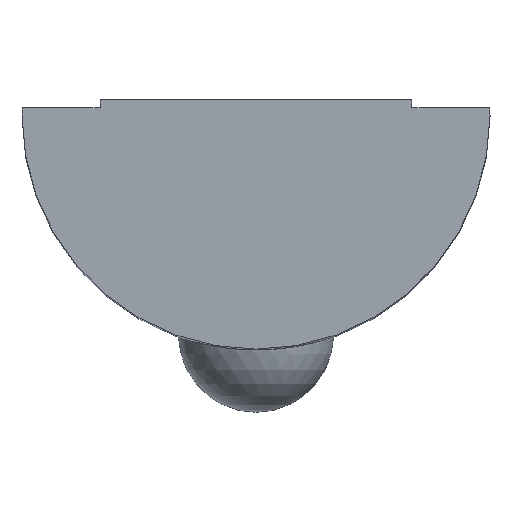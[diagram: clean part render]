
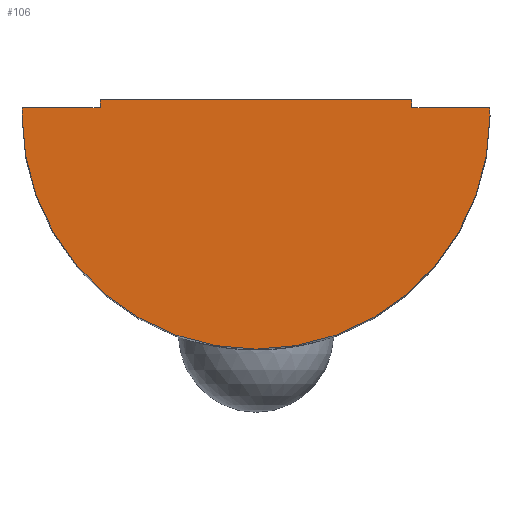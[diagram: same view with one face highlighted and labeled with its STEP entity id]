
A CAD part, top view. The second image highlights one B-rep face of the part: STEP entity #106.
In plain terms, the highlighted planar face has unit normal (0, 0, 1).
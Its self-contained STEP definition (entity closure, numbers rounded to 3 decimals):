
#14 = ORIENTED_EDGE ( 'NONE', *, *, #318, .T. ) ;
#16 = CARTESIAN_POINT ( 'NONE',  ( -11.754, 3.745, 23. ) ) ;
#23 = CIRCLE ( 'NONE', #239, 7.504 ) ;
#25 = DIRECTION ( 'NONE',  ( 0., 0., 1. ) ) ;
#29 = VERTEX_POINT ( 'NONE', #406 ) ;
#42 = EDGE_CURVE ( 'NONE', #551, #413, #23, .T. ) ;
#53 = AXIS2_PLACEMENT_3D ( 'NONE', #345, #401, #89 ) ;
#82 = CARTESIAN_POINT ( 'NONE',  ( -11.754, 3.495, 23. ) ) ;
#89 = DIRECTION ( 'NONE',  ( 1., 0., 0. ) ) ;
#106 = ADVANCED_FACE ( 'NONE', ( #118 ), #676, .T. ) ;
#108 = DIRECTION ( 'NONE',  ( 0., 0., 1. ) ) ;
#110 = LINE ( 'NONE', #224, #359 ) ;
#118 = FACE_OUTER_BOUND ( 'NONE', #437, .T. ) ;
#156 = CARTESIAN_POINT ( 'NONE',  ( -9.254, 3.495, 23. ) ) ;
#160 = VERTEX_POINT ( 'NONE', #82 ) ;
#166 = VECTOR ( 'NONE', #514, 1000. ) ;
#169 = CARTESIAN_POINT ( 'NONE',  ( -21.754, 3.495, 23. ) ) ;
#176 = CARTESIAN_POINT ( 'NONE',  ( -11.754, 3.745, 23. ) ) ;
#183 = VERTEX_POINT ( 'NONE', #650 ) ;
#188 = LINE ( 'NONE', #462, #443 ) ;
#205 = VECTOR ( 'NONE', #226, 1000. ) ;
#208 = AXIS2_PLACEMENT_3D ( 'NONE', #269, #641, #324 ) ;
#215 = CIRCLE ( 'NONE', #459, 7.504 ) ;
#224 = CARTESIAN_POINT ( 'NONE',  ( -21.754, 3.745, 23. ) ) ;
#226 = DIRECTION ( 'NONE',  ( -1., 0., 0. ) ) ;
#229 = ORIENTED_EDGE ( 'NONE', *, *, #42, .T. ) ;
#239 = AXIS2_PLACEMENT_3D ( 'NONE', #418, #108, #465 ) ;
#247 = EDGE_CURVE ( 'NONE', #29, #654, #110, .T. ) ;
#255 = ORIENTED_EDGE ( 'NONE', *, *, #464, .T. ) ;
#264 = ORIENTED_EDGE ( 'NONE', *, *, #325, .T. ) ;
#269 = CARTESIAN_POINT ( 'NONE',  ( -16.754, 3.25, 23. ) ) ;
#309 = VERTEX_POINT ( 'NONE', #156 ) ;
#316 = CARTESIAN_POINT ( 'NONE',  ( -11.754, 3.495, 23. ) ) ;
#318 = EDGE_CURVE ( 'NONE', #654, #183, #188, .T. ) ;
#324 = DIRECTION ( 'NONE',  ( 1., 0., 0. ) ) ;
#325 = EDGE_CURVE ( 'NONE', #309, #160, #457, .T. ) ;
#333 = CARTESIAN_POINT ( 'NONE',  ( -16.754, 3.25, 23. ) ) ;
#345 = CARTESIAN_POINT ( 'NONE',  ( -16.754, 3.25, 23. ) ) ;
#351 = ORIENTED_EDGE ( 'NONE', *, *, #557, .T. ) ;
#353 = LINE ( 'NONE', #597, #205 ) ;
#359 = VECTOR ( 'NONE', #536, 1000. ) ;
#377 = DIRECTION ( 'NONE',  ( 1., 0., 0. ) ) ;
#401 = DIRECTION ( 'NONE',  ( 0., 0., 1. ) ) ;
#406 = CARTESIAN_POINT ( 'NONE',  ( -21.754, 3.745, 23. ) ) ;
#413 = VERTEX_POINT ( 'NONE', #664 ) ;
#418 = CARTESIAN_POINT ( 'NONE',  ( -16.754, 3.25, 23. ) ) ;
#437 = EDGE_LOOP ( 'NONE', ( #255, #229, #683, #264, #351, #690, #461, #14 ) ) ;
#443 = VECTOR ( 'NONE', #632, 1000. ) ;
#457 = LINE ( 'NONE', #316, #166 ) ;
#459 = AXIS2_PLACEMENT_3D ( 'NONE', #333, #25, #377 ) ;
#461 = ORIENTED_EDGE ( 'NONE', *, *, #247, .T. ) ;
#462 = CARTESIAN_POINT ( 'NONE',  ( -21.754, 3.495, 23. ) ) ;
#464 = EDGE_CURVE ( 'NONE', #183, #551, #534, .T. ) ;
#465 = DIRECTION ( 'NONE',  ( 1., 0., 0. ) ) ;
#471 = DIRECTION ( 'NONE',  ( 0., 1., 0. ) ) ;
#486 = VECTOR ( 'NONE', #471, 1000. ) ;
#514 = DIRECTION ( 'NONE',  ( -1., 0., 0. ) ) ;
#534 = CIRCLE ( 'NONE', #208, 7.504 ) ;
#536 = DIRECTION ( 'NONE',  ( 0., -1., 0. ) ) ;
#551 = VERTEX_POINT ( 'NONE', #645 ) ;
#557 = EDGE_CURVE ( 'NONE', #160, #625, #640, .T. ) ;
#597 = CARTESIAN_POINT ( 'NONE',  ( -16.754, 3.745, 23. ) ) ;
#625 = VERTEX_POINT ( 'NONE', #176 ) ;
#632 = DIRECTION ( 'NONE',  ( -1., 0., 0. ) ) ;
#640 = LINE ( 'NONE', #16, #486 ) ;
#641 = DIRECTION ( 'NONE',  ( 0., 0., 1. ) ) ;
#645 = CARTESIAN_POINT ( 'NONE',  ( -24.258, 3.25, 23. ) ) ;
#648 = EDGE_CURVE ( 'NONE', #413, #309, #215, .T. ) ;
#650 = CARTESIAN_POINT ( 'NONE',  ( -24.254, 3.495, 23. ) ) ;
#654 = VERTEX_POINT ( 'NONE', #169 ) ;
#664 = CARTESIAN_POINT ( 'NONE',  ( -9.25, 3.25, 23. ) ) ;
#676 = PLANE ( 'NONE',  #53 ) ;
#683 = ORIENTED_EDGE ( 'NONE', *, *, #648, .T. ) ;
#684 = EDGE_CURVE ( 'NONE', #625, #29, #353, .T. ) ;
#690 = ORIENTED_EDGE ( 'NONE', *, *, #684, .T. ) ;
